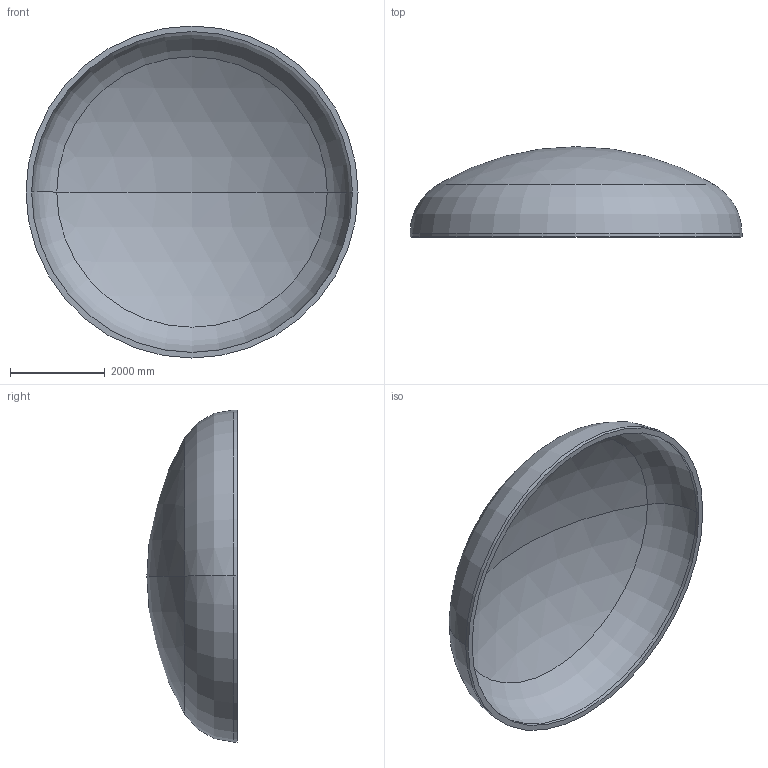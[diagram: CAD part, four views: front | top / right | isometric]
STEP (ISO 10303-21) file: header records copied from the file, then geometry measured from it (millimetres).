
FILE_DESCRIPTION (( 'STEP AP203' ), '1' );
FILE_NAME ('DIN 28013 Korbbogenform_-_Boden DIN 28013 - 7000 x 75 - I - s=118.step', '2016-07-04T10:50:49', ( '' ), ( '' ), 'SwSTEP 2.0', 'SolidWorks 2013', '' );
FILE_SCHEMA (( 'CONFIG_CONTROL_DESIGN' ));
Length unit declared in the file: millimetre
Products named in the file (1): DIN 28013 Korbbogenform_-_Boden DIN 28013 - 7000 x 75 - I - s=118
Bounding box: 7000 x 1903.12 x 7000 mm (x, y, z)
Volume: 6344733236.7 mm3; surface area: 110118185.2 mm2
Topology: 1 solids, 1 shells, 13 faces, 24 edges, 14 vertices
Faces by surface type: torus 4, cylinder 4, sphere 4, plane 1
Entity records: 407 total; most frequent: DIRECTION 72, CARTESIAN_POINT 52, ORIENTED_EDGE 48, AXIS2_PLACEMENT_3D 34, EDGE_CURVE 24, CIRCLE 20, VERTEX_POINT 14, EDGE_LOOP 14
